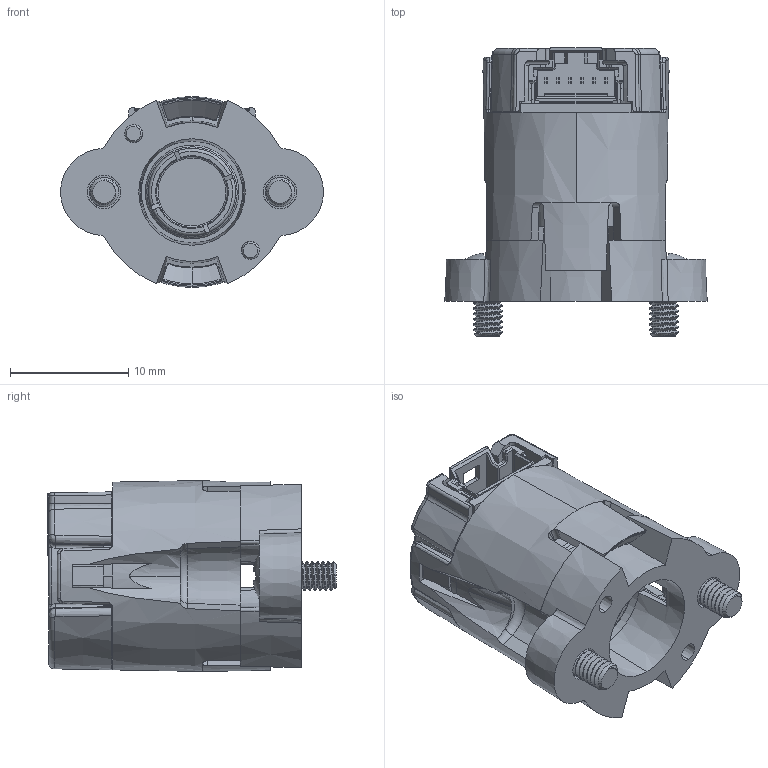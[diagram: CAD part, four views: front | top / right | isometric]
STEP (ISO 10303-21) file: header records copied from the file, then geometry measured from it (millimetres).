
FILE_DESCRIPTION(('FreeCAD Model'),'2;1');
FILE_NAME('Open CASCADE Shape Model','2023-09-07T14:58:57',(''),(''), 'Open CASCADE STEP processor 7.6','FreeCAD','Unknown');
FILE_SCHEMA(('AUTOMOTIVE_DESIGN { 1 0 10303 214 1 1 1 1 }'));
Length unit declared in the file: millimetre
Products named in the file (1): Fusion007
Bounding box: 22.2 x 24.42 x 16.14 mm (x, y, z)
Volume: 2246.3 mm3; surface area: 4175.7 mm2
Topology: 3 solids, 4 shells, 908 faces, 2589 edges, 1668 vertices
Faces by surface type: plane 418, cylinder 215, cone 114, bspline 96, torus 57, sphere 8
Entity records: 40345 total; most frequent: CARTESIAN_POINT 11779, ORIENTED_EDGE 5170, DIRECTION 4155, EDGE_CURVE 2585, VERTEX_POINT 1668, AXIS2_PLACEMENT_3D 1478, LINE 1199, VECTOR 1199
